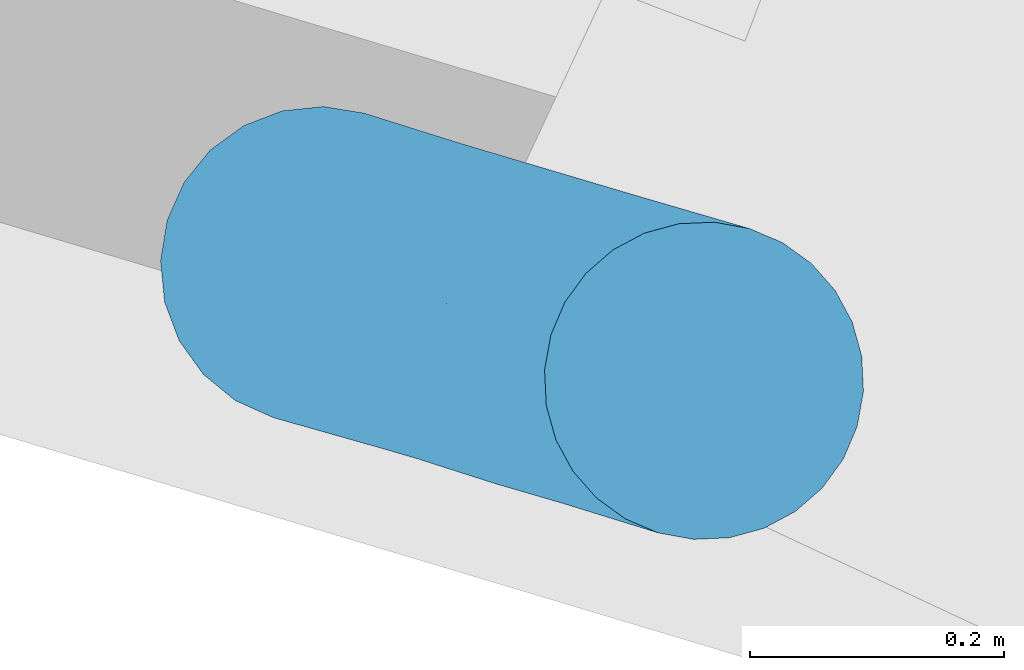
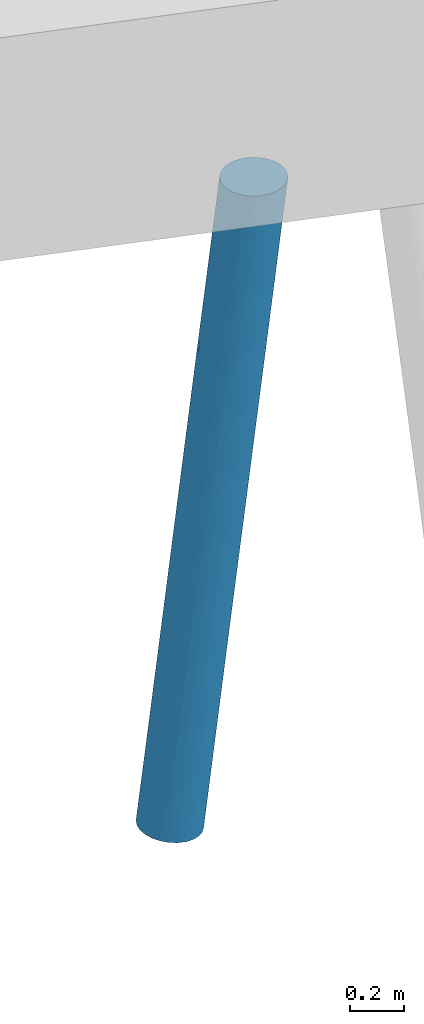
# One storey, part 17 of 46: 1 pile.
"""IFC2X3 building model written with IfcOpenShell, lengths in millimetres."""

from ifc_helpers import new_model, entity, si_unit, converted_unit, derived_unit, direction, frame, origin, place, context, subcontext, project, spatial, faceted_brep, source, transform, mapped, material, type_object, type_shapes, element, save


model = new_model("IFC2X3")

# Units and contexts
model_context = context("Model", 3, precision=0.01, world=origin(), true_north=direction((6.123233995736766e-17, 1.0)))
body_context = subcontext(model_context, "Body", "Model", "MODEL_VIEW")
ifc_project = project(units=[si_unit("LENGTHUNIT", "METRE", prefix="MILLI"), converted_unit("PLANEANGLEUNIT", "DEGREE", entity("IfcPlaneAngleMeasure", 0.017453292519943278), si_unit("PLANEANGLEUNIT", "RADIAN"), dimensions=[0, 0, 0, 0, 0, 0, 0]), si_unit("AREAUNIT", "SQUARE_METRE"), derived_unit("THERMALTRANSMITTANCEUNIT", [(si_unit("MASSUNIT", "GRAM", prefix="KILO"), 1), (si_unit("THERMODYNAMICTEMPERATUREUNIT", "KELVIN"), -1), (si_unit("TIMEUNIT", "SECOND"), -3)])], contexts=[model_context])

# Site, building, storey
site_placement = place(None, frame((-72937.88054949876, 11621.45624098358, 0.0), z_axis=(0.0, 0.0, 1.0), x_axis=(0.9346418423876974, -0.35559053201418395, 0.0)))
site = spatial("IfcSite", under=ifc_project, at=site_placement, Name="Default", CompositionType="ELEMENT")
building_placement = place(site_placement, origin())
building = spatial("IfcBuilding", under=site, at=building_placement, CompositionType="ELEMENT")
storey_placement = place(building_placement, origin())
storey = spatial("IfcBuildingStorey", under=building, at=storey_placement, Name="00 begane grond", CompositionType="ELEMENT", Elevation=0.0)

# Pile
ifc_material = material(Name="beton_gewapend_prefab-element_c45/55")
type_product = type_object("IfcTypeProduct", Name="Type 01", material=ifc_material)
shared_shape = source(origin(), body_context, "Body", "Brep", [
    faceted_brep([(124.838162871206, -27.815116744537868, -1150.0), (115.53639022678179, -54.2354673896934, -1150.0), (72.36643070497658, -41.239861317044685, -1587.2480771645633), (-111.09194578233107, -54.23546738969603, -1150.0), (-165.1894529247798, -41.33003827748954, -1588.444859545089), (-182.07875772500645, -65.1457063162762, -1842.6627389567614), (-30.14575159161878, -64.60051474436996, -2410.3553271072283), (32.98344934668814, -64.94314047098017, -1840.3127773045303), (15.031797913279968, -88.27496307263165, -1836.1297740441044), (41.77006032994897, 0.0, -1925.9925992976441), (100.55257203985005, -77.9362252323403, -1150.0), (80.6380595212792, -97.7289353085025, -1150.0), (-180.54618184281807, -99.16916754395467, -3483.986786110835), (-108.1734310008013, -106.74566752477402, -2732.5343267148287), (-175.6519081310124, -115.48494156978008, -3184.0354063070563), (-42.91884640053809, -117.90464735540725, -1932.203812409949), (56.79144948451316, -112.62110848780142, -1150.0), (30.20851053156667, -121.8659890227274, -1150.0), (-120.39371842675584, -27.81511674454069, -1150.0), (-242.98263969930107, -88.62069146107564, -2558.5627355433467), (-162.25875578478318, -88.50075404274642, -1830.9574517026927), (-245.70385641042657, -64.88368548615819, -2413.843724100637), (-194.4421984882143, -32.35238063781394, -4013.333582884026), (-133.56769714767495, -28.49629953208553, -3474.2266886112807), (-151.93048965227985, -53.33845094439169, -3561.073967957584), (12.222467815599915, -106.275938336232, -1655.8961403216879), (-23.42762089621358, -124.20079095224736, -1508.642990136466), (-80.64748703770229, -124.2366812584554, -1770.9263967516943), (-73.06982999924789, -124.27812918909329, -1949.101189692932), (-265.024992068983, -123.93060767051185, -3407.479310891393), (-314.4444444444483, -125.0, -4000.0), (-240.21076201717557, -123.93060767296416, -3479.642475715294), (-190.20897761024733, 0.0, -4013.803940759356), (-117.33081280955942, 0.0, -3357.900457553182), (-25.764066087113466, -121.86598902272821, -1150.0), (2.2222222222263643, -125.0, -1150.0), (-317.9689709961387, -23.60182842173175, -2920.157783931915), (-375.26894382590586, -28.366113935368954, -3445.0277270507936), (-326.96702366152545, -47.83542903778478, -3066.9425894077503), (-73.70805836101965, -23.187811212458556, -2945.6497765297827), (16.085837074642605, -41.18767244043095, -2093.938466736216), (-39.92708990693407, -41.47720200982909, -2597.136214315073), (-183.66520352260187, -123.01104339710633, -3024.1067526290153), (-196.28435151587, -123.47165352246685, -2760.09510592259), (-252.3267110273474, -108.25317547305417, -4006.901970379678), (-226.59670338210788, -88.38834764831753, -4009.7608601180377), (-206.8533741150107, -62.49999999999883, -4011.9545633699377), (-148.27550792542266, -76.09517863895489, -3402.494577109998), (-119.74622127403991, -106.37235269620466, -1653.229951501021), (-99.40312932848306, -118.21391771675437, -1696.7443345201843), (-52.347005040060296, -112.62110848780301, -1150.0), (-238.2779479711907, -106.2597512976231, -2718.3665211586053), (-185.92128902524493, -102.46025049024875, -2194.904710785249), (-42.820885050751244, -102.58547775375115, -2202.1491422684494), (-156.2252162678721, -118.09364807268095, -2204.9892079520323), (-264.72929865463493, -115.48494155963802, -3119.3954545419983), (-319.0271104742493, -115.48494156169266, -3608.075760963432), (-76.19361507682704, -97.72893530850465, -1150.0), (-96.10812759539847, -77.93622523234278, -1150.0), (-44.45199380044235, 0.0, -2701.9910864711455), (-1.3402226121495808, 0.0, -2313.985145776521), (-292.9202820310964, -72.79893776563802, -2886.1326580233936), (-292.6922084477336, -91.63383624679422, -3034.349570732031), (-282.2899395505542, -120.74072828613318, -4003.5727227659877), (-227.3188222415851, -115.48494156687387, -3649.037633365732), (-209.76851175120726, 0.0, -1925.9934634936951), (-221.60043037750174, -41.38232604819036, -2096.3096577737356), (-376.56217786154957, -108.25317547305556, -3993.0980296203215), (-346.59894933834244, -120.74072828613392, -3996.4272772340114), (-66.21715172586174, -88.15377228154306, -2568.4634430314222), (-129.97696806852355, -118.32629651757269, -2704.7019880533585), (-123.5470158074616, 0.0, -1150.0), (-377.52744650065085, -52.97984274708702, -3542.5215927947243), (-345.70385271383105, -76.09517862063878, -3383.3196685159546), (-275.8885685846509, -42.22399193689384, -2587.6075033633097), (-422.0355147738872, -62.50000000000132, -3988.0454366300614), (-402.29218550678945, -88.38834764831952, -3990.239139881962), (-331.8470727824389, -99.16916753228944, -3467.5525053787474), (-132.4434459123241, -124.68323586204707, -2281.458802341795), (-96.52658231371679, -47.8354290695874, -3084.4998642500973), (-89.11715414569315, -71.65077909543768, -2899.5648185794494), (127.99146025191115, 0.0, -1150.0), (-252.87925972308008, 0.0, -2313.9901952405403), (-122.93481462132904, -90.89446365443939, -3053.447507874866), (-434.4466904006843, -32.352380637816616, -3986.6664171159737), (-438.679911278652, 0.0, -3986.1960592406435), (-141.73877836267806, -124.16072599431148, -2576.5969257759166), (-210.06991733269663, -117.23436667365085, -2667.8819222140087), (-295.9900076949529, 0.0, -2701.9869269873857), (-367.3349594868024, 0.0, -3344.0914931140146), (124.83816287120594, 27.815116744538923, -1150.0), (115.53639022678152, 54.23546738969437, -1150.0), (100.55257203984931, 77.93622523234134, -1150.0), (80.63805952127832, 97.7289353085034, -1150.0), (56.79144948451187, 112.62110848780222, -1150.0), (30.20851053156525, 121.86598902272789, -1150.0), (2.22222222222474, 125.0, -1150.0), (-25.76406608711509, 121.86598902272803, -1150.0), (-52.34700504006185, 112.62110848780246, -1150.0), (-76.1936150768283, 97.72893530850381, -1150.0), (-96.10812759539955, 77.93622523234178, -1150.0), (-111.09194578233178, 54.23546738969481, -1150.0), (-120.39371842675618, 27.815116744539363, -1150.0), (-96.52658225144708, 47.83542901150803, -3084.4998639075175), (-133.5676976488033, 28.496299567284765, -3474.2266930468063), (-151.9304895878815, 53.338451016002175, -3561.073967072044), (-176.7825211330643, 87.58614607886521, -1953.453255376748), (-126.78568187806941, 88.44799753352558, -1511.2211246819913), (-140.32328536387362, 105.94191584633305, -1832.1538289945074), (-185.53475823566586, 41.3488976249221, -1771.6124540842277), (-98.5233768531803, 124.24251446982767, -1932.2861052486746), (-159.3540506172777, 67.83984168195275, -1653.46778938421), (-221.49211536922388, 66.66107193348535, -2205.8974607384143), (-402.2921855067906, 88.38834764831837, -3990.239139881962), (-352.8086337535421, 76.09517892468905, -3447.262699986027), (-312.10423006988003, 99.16916769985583, -3289.866922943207), (-282.2899395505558, 120.74072828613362, -4003.5727227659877), (-314.44444444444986, 125.0, -4000.0), (-235.4135805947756, 123.93060766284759, -3436.467843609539), (-362.94366171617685, 26.27355326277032, -3329.855963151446), (-328.2998352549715, 47.83542988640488, -3078.9378969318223), (-384.2243809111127, 47.83542945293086, -3582.258806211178), (-376.562177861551, 108.25317547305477, -3993.0980296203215), (-180.54618171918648, 99.16916751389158, -3483.9867853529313), (-148.27550783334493, 76.0951785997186, -3402.49457655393), (-226.59670338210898, 88.38834764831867, -4009.7608601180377), (-163.5203657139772, 118.46525212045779, -2280.489865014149), (-104.92272192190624, 118.27912572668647, -1748.143371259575), (-89.11715398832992, 71.6507788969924, -2899.5648184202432), (-39.927089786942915, 41.4772017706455, -2597.1362139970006), (-274.28881423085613, 82.15433137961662, -2785.484682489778), (-221.11735801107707, 106.04994682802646, -2560.8655013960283), (-422.03551477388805, 62.49999999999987, -3988.0454366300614), (-434.4466904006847, 32.35238063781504, -3986.6664171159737), (-180.90977316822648, 122.95522291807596, -3002.0876370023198), (-141.73877802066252, 124.16072595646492, -2576.596925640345), (-129.97696798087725, 118.32629644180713, -2704.701989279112), (-180.2811496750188, 124.04234815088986, -2652.685215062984), (-242.59310629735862, 123.930607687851, -3205.592340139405), (-232.5682987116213, 117.68101498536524, -2881.4778788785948), (-301.7888662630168, 115.48494161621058, -3452.931564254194), (-346.598949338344, 120.7407282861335, -3996.4272772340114), (-206.85337411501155, 62.50000000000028, -4011.9545633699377), (-42.918846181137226, 117.90464729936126, -1932.2038118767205), (-83.49872980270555, 124.18127902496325, -2050.8284888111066), (-29.55955353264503, 124.19873841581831, -1563.9938530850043), (15.03179802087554, 88.27496298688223, -1836.1297738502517), (32.983449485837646, 64.94314037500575, -1840.3127765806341), (-30.14575143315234, 64.60051457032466, -2410.3553266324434), (-42.820884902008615, 102.58547764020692, -2202.149142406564), (12.222467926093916, 106.27593827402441, -1655.89614023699), (-73.70805863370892, 23.18781108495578, -2945.6497792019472), (16.08583725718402, 41.18767230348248, -2093.9384655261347), (72.36643080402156, 41.2398612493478, -1587.2480764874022), (-221.94118502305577, 91.78881553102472, -2399.105716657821), (-108.17343087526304, 106.7456674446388, -2732.5343267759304), (-66.2171515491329, 88.15377212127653, -2568.463442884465), (-122.93481449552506, 90.89446347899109, -3053.447508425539), (-262.27997921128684, 34.77836369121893, -2443.29023072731), (-227.3188223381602, 115.48494155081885, -3649.037634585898), (-252.32671102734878, 108.25317547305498, -4006.901970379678), (-277.036285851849, 61.03344887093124, -2675.5040755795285), (-194.44219848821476, 32.35238063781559, -4013.333582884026), (-312.1095376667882, 26.52940126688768, -2872.8494770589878), (-175.65190824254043, 115.48494153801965, -3184.035408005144)], [[[0, 1, 2]], [[3, 4, 5]], [[6, 7, 8]], [[9, 0, 2]], [[8, 10, 11]], [[12, 13, 14]], [[15, 16, 17]], [[4, 3, 18]], [[19, 20, 21]], [[22, 23, 24]], [[11, 16, 25]], [[26, 27, 28]], [[29, 30, 31]], [[32, 33, 23]], [[10, 8, 7]], [[34, 27, 35]], [[36, 37, 38]], [[33, 39, 23]], [[40, 6, 41]], [[42, 43, 29]], [[44, 45, 12]], [[20, 5, 21]], [[26, 17, 35]], [[45, 46, 47]], [[48, 49, 50]], [[19, 51, 52]], [[53, 25, 15]], [[46, 24, 47]], [[48, 54, 49]], [[55, 56, 29]], [[57, 58, 20]], [[40, 59, 60, 9]], [[61, 62, 19]], [[2, 7, 40]], [[63, 44, 64]], [[65, 66, 4]], [[3, 5, 58]], [[20, 52, 48]], [[67, 68, 56]], [[29, 43, 55]], [[69, 53, 13]], [[13, 70, 14]], [[18, 71, 65]], [[72, 73, 38]], [[68, 30, 29]], [[74, 36, 38]], [[62, 51, 19]], [[38, 61, 74]], [[37, 72, 38]], [[75, 76, 73]], [[76, 77, 73]], [[57, 20, 48]], [[12, 45, 47]], [[6, 40, 7]], [[78, 54, 43]], [[27, 78, 28]], [[79, 41, 80]], [[81, 0, 9]], [[66, 65, 82]], [[41, 39, 59]], [[13, 12, 83]], [[76, 67, 77]], [[84, 37, 85]], [[21, 61, 19]], [[30, 63, 31]], [[31, 42, 29]], [[47, 80, 83]], [[64, 12, 14]], [[56, 77, 67]], [[51, 62, 77]], [[64, 31, 63]], [[14, 70, 42]], [[1, 10, 7]], [[9, 2, 40]], [[7, 2, 1]], [[6, 8, 69]], [[80, 6, 69]], [[6, 80, 41]], [[65, 4, 18]], [[5, 4, 66]], [[5, 66, 21]], [[58, 5, 20]], [[74, 21, 66]], [[61, 38, 73]], [[78, 43, 86]], [[55, 87, 51]], [[83, 80, 69]], [[79, 80, 47]], [[83, 69, 13]], [[47, 83, 12]], [[53, 69, 8]], [[70, 15, 86]], [[25, 53, 8]], [[70, 53, 15]], [[11, 25, 8]], [[15, 25, 16]], [[39, 41, 79]], [[59, 40, 41]], [[23, 39, 79]], [[33, 59, 39]], [[24, 23, 79]], [[32, 23, 22]], [[47, 24, 79]], [[22, 24, 46]], [[61, 21, 74]], [[62, 73, 77]], [[73, 62, 61]], [[51, 77, 55]], [[87, 55, 43]], [[19, 52, 20]], [[51, 54, 52]], [[27, 49, 54]], [[54, 48, 52]], [[57, 48, 50]], [[70, 13, 53]], [[42, 70, 86]], [[43, 42, 86]], [[14, 42, 31]], [[29, 56, 68]], [[74, 66, 82]], [[88, 89, 36, 82]], [[37, 36, 89]], [[85, 37, 89]], [[72, 84, 75]], [[84, 72, 37]], [[73, 72, 75]], [[43, 54, 87]], [[54, 51, 87]], [[36, 74, 82]], [[77, 56, 55]], [[28, 86, 15]], [[54, 78, 27]], [[86, 28, 78]], [[26, 15, 17]], [[27, 26, 35]], [[15, 26, 28]], [[12, 64, 44]], [[31, 64, 14]], [[27, 34, 49]], [[50, 49, 34]], [[34, 35, 17, 16, 11, 10, 1, 0, 81, 90, 91, 92, 93, 94, 95, 96, 97, 98, 99, 100, 101, 102, 71, 18, 3, 58, 57, 50]], [[103, 104, 105]], [[90, 81, 9]], [[106, 107, 108]], [[109, 102, 101]], [[110, 97, 96]], [[111, 112, 109]], [[113, 114, 115]], [[116, 117, 118]], [[98, 108, 99]], [[119, 120, 121]], [[113, 115, 122]], [[106, 112, 111]], [[123, 124, 125]], [[110, 126, 127]], [[119, 85, 89]], [[65, 71, 102]], [[103, 128, 129]], [[115, 130, 131]], [[108, 127, 126]], [[132, 133, 121]], [[134, 135, 136]], [[137, 138, 139]], [[140, 141, 122]], [[142, 125, 124]], [[143, 144, 145]], [[146, 147, 148]], [[146, 149, 150]], [[130, 115, 114]], [[151, 104, 103]], [[143, 136, 144]], [[9, 152, 153]], [[140, 122, 115]], [[143, 95, 94]], [[98, 97, 127]], [[92, 146, 93]], [[138, 140, 139]], [[131, 130, 154]], [[129, 151, 103]], [[117, 141, 138]], [[118, 117, 138]], [[155, 156, 157]], [[96, 95, 145]], [[109, 158, 65]], [[116, 159, 160]], [[143, 149, 136]], [[153, 91, 90]], [[105, 124, 103]], [[112, 158, 109]], [[146, 148, 156]], [[100, 111, 101]], [[128, 157, 156]], [[147, 92, 91]], [[91, 153, 147]], [[150, 93, 146]], [[156, 155, 149]], [[161, 158, 112]], [[65, 102, 109]], [[113, 132, 114]], [[139, 140, 115]], [[125, 160, 123]], [[152, 9, 60]], [[162, 104, 32]], [[148, 128, 156]], [[138, 137, 134]], [[163, 158, 120]], [[159, 118, 164]], [[121, 114, 132]], [[130, 161, 112]], [[161, 114, 120]], [[112, 106, 154]], [[139, 115, 131]], [[138, 141, 140]], [[163, 120, 119]], [[158, 88, 82, 65]], [[159, 123, 160]], [[155, 157, 123]], [[9, 153, 90]], [[147, 153, 152]], [[147, 152, 148]], [[92, 147, 146]], [[129, 148, 152]], [[128, 103, 124]], [[131, 126, 139]], [[135, 134, 137]], [[108, 126, 131]], [[110, 144, 137]], [[139, 126, 137]], [[110, 137, 126]], [[128, 148, 129]], [[157, 124, 123]], [[124, 157, 128]], [[155, 123, 164]], [[136, 155, 164]], [[156, 149, 146]], [[136, 149, 155]], [[150, 143, 94]], [[143, 150, 149]], [[93, 150, 94]], [[101, 111, 109]], [[129, 152, 60]], [[59, 33, 151]], [[104, 151, 33]], [[32, 104, 33]], [[105, 162, 142]], [[162, 105, 104]], [[124, 105, 142]], [[98, 127, 108]], [[97, 110, 127]], [[134, 164, 118]], [[136, 135, 144]], [[164, 134, 136]], [[138, 134, 118]], [[133, 85, 119]], [[114, 121, 120]], [[133, 119, 121]], [[163, 89, 88]], [[89, 163, 119]], [[88, 158, 163]], [[59, 151, 129]], [[60, 59, 129]], [[100, 99, 107]], [[111, 100, 107]], [[154, 108, 131]], [[108, 107, 99]], [[111, 107, 106]], [[137, 144, 135]], [[145, 110, 96]], [[143, 145, 95]], [[110, 145, 144]], [[118, 159, 116]], [[123, 159, 164]], [[114, 161, 130]], [[158, 161, 120]], [[112, 154, 130]], [[108, 154, 106]], [[141, 117, 116, 160, 125, 142, 162, 32, 22, 46, 45, 44, 63, 30, 68, 67, 76, 75, 84, 85, 133, 132, 113, 122]]]),
])
type_shapes(type_product, [shared_shape])
pile_placement = place(storey_placement, frame((65962.68254716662, 14950.602475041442, 0.0), z_axis=(0.0, 0.0, 1.0), x_axis=(0.9973760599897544, 0.07239471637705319, 0.0)))
element("IfcPile", 1, at=pile_placement, inside=storey, type_object=type_product, material=ifc_material, Name="17.21_Prefab funderingspaal rond", ObjectType="prefab paal rond", PredefinedType="NOTDEFINED", context=body_context, shape_type="MappedRepresentation", body=[
    mapped(shared_shape, transform((0.0, 0.0, 0.0), scale=1.0)),
])

save(model, "model.ifc")
